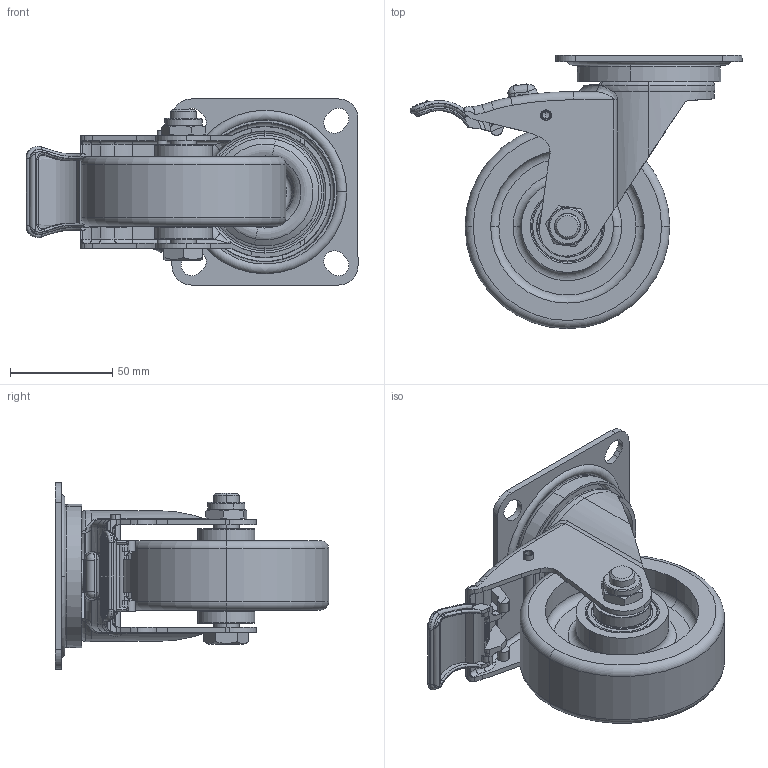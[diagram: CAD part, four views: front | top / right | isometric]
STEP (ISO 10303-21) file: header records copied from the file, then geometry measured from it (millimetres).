
FILE_DESCRIPTION (( 'STEP AP203' ), '1' );
FILE_NAME ('4111604004025-日式白鐵活煞PU輪.STEP', '2026-02-10T06:43:42', ( '' ), ( '' ), 'SwSTEP 2.0', 'SolidWorks 2019', '' );
FILE_SCHEMA (( 'CONFIG_CONTROL_DESIGN' ));
Length unit declared in the file: metre
Products named in the file (1): 4111604004025-日式白鐵活煞PU輪
Bounding box: 162.4 x 133.67 x 91 mm (x, y, z)
Surface area: 107607.2 mm2 (no closed solid volume)
Topology: 0 solids, 23 shells, 605 faces, 2046 edges, 1427 vertices
Faces by surface type: cylinder 173, plane 158, torus 121, bspline 100, cone 39, sphere 14
Entity records: 33086 total; most frequent: CARTESIAN_POINT 16593, ORIENTED_EDGE 3405, DIRECTION 3115, EDGE_CURVE 2037, VERTEX_POINT 1427, AXIS2_PLACEMENT_3D 1180, LINE 755, VECTOR 755
